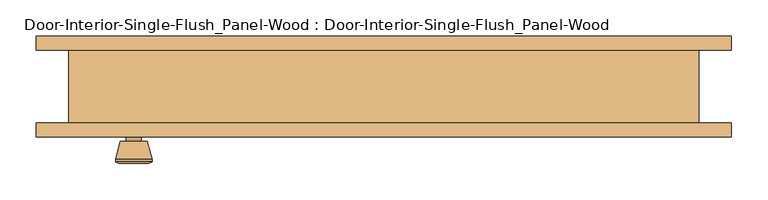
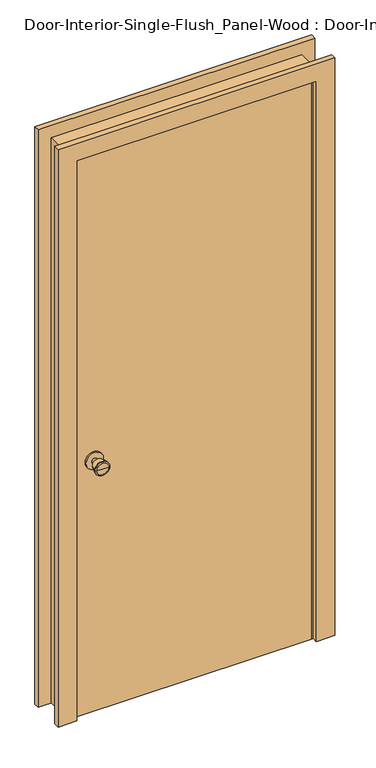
"""IFC4 building model written with IfcOpenShell, lengths in millimetres: door geometry, Door-Interior-Single-Flush_Panel-Wood : Door-Interior-Single-Flush_Panel-Wood."""

from ifc_helpers import new_model, si_unit, point, frame, frame_2d, origin, origin_with_axes, place, context, project, spatial, polyline, circle_curve, trimmed, segment, composite_curve, outline, extrude, faceted_brep, source, transform, mapped, element, save
from ifc_brep_helpers import plane_surface, cylinder_surface, revolved_surface, advanced_brep


def door_interior_single_flush_panel_wood_door_interior_single_6c8a464a(model_context):
    return source(origin(), model_context, "Body", "SolidModel", [
        advanced_brep(
        [(-342.9, -5.9, 914.4), (-352.9, -5.9, 914.4), (-332.9, -5.9, 914.4), (-322.4241324, 43.1, 914.4), (-363.3758676, 43.1, 914.4), (-342.9, 43.1, 914.4), (-317.9, 41.2721319, 914.4), (-367.9, 41.2721319, 914.4), (-317.9, 37.8084537, 914.4), (-367.9, 37.8084537, 914.4), (-324.263764, 13.1, 914.4), (-361.536236, 13.1, 914.4), (-332.9, 13.1, 914.4), (-352.9, 13.1, 914.4)],
        [
            (0, 1),
            (1, 2, circle_curve(frame((-342.9, -5.9, 914.4), z_axis=(0.0, -1.0, 0.0), x_axis=(-1.0, 0.0, 0.0)), 10.0)),
            (2, 0),
            (2, 1, circle_curve(frame((-342.9, -5.9, 914.4), z_axis=(0.0, -1.0, 0.0), x_axis=(-1.0, 0.0, 0.0)), 10.0)),
            (3, 4, circle_curve(frame((-342.9, 43.1, 914.4), z_axis=(0.0, 1.0, 0.0), x_axis=(-1.0, 0.0, 0.0)), 20.4758676)),
            (4, 5),
            (5, 3),
            (4, 3, circle_curve(frame((-342.9, 43.1, 914.4), z_axis=(0.0, 1.0, 0.0), x_axis=(-1.0, 0.0, 0.0)), 20.4758676)),
            (6, 7, circle_curve(frame((-342.9, 41.2721319, 914.4), z_axis=(0.0, 1.0, 0.0), x_axis=(-1.0, 0.0, 0.0)), 25.0)),
            (7, 4),
            (3, 6),
            (7, 6, circle_curve(frame((-342.9, 41.2721319, 914.4), z_axis=(0.0, 1.0, 0.0), x_axis=(-1.0, 0.0, 0.0)), 25.0)),
            (8, 9, circle_curve(frame((-342.9, 37.8084537, 914.4), z_axis=(0.0, 1.0, 0.0), x_axis=(-1.0, 0.0, 0.0)), 25.0)),
            (9, 7),
            (6, 8),
            (9, 8, circle_curve(frame((-342.9, 37.8084537, 914.4), z_axis=(0.0, 1.0, 0.0), x_axis=(-1.0, 0.0, 0.0)), 25.0)),
            (10, 11, circle_curve(frame((-342.9, 13.1, 914.4), z_axis=(0.0, 1.0, 0.0), x_axis=(-1.0, 0.0, 0.0)), 18.636236)),
            (11, 9),
            (8, 10),
            (11, 10, circle_curve(frame((-342.9, 13.1, 914.4), z_axis=(0.0, 1.0, 0.0), x_axis=(-1.0, 0.0, 0.0)), 18.636236)),
            (12, 13, circle_curve(frame((-342.9, 13.1, 914.4), z_axis=(0.0, 1.0, 0.0), x_axis=(-1.0, 0.0, 0.0)), 10.0)),
            (13, 11),
            (10, 12),
            (13, 12, circle_curve(frame((-342.9, 13.1, 914.4), z_axis=(0.0, 1.0, 0.0), x_axis=(-1.0, 0.0, 0.0)), 10.0)),
            (1, 13),
            (12, 2),
        ],
        [
            plane_surface(frame((-342.9, -5.9, 914.4), z_axis=(0.0, -1.0, 0.0), x_axis=(-1.0, 0.0, 0.0))),
            plane_surface(frame((-342.9, 43.1, 914.4), z_axis=(0.0, 1.0, 0.0), x_axis=(-1.0, 0.0, 0.0))),
            revolved_surface(polyline([(-363.3758676, 43.1, 914.4), (-367.9, 41.2721319, 914.4)]), (-342.9, -5.9, 914.4), (0.0, -1.0, 0.0)),
            cylinder_surface(frame((-342.9, -5.9, 914.4), z_axis=(0.0, -1.0, 0.0), x_axis=(-1.0, 0.0, 0.0)), 25.0),
            revolved_surface(polyline([(-367.9, 37.8084537, 914.4), (-361.536236, 13.1, 914.4)]), (-342.9, -5.9, 914.4), (0.0, -1.0, 0.0)),
            plane_surface(frame((-342.9, 13.1, 914.4), z_axis=(0.0, -1.0, 0.0), x_axis=(-1.0, 0.0, 0.0))),
            cylinder_surface(frame((-342.9, -5.9, 914.4), z_axis=(0.0, -1.0, 0.0), x_axis=(-1.0, 0.0, 0.0)), 10.0),
        ],
        [
            (0, [[1, 2, 3]]),
            (0, [[-3, 4, -1]]),
            (1, [[5, 6, 7]]),
            (1, [[8, -7, -6]]),
            (2, [[9, 10, -5, 11]]),
            (2, [[12, -11, -8, -10]]),
            (3, [[13, 14, -9, 15]]),
            (3, [[16, -15, -12, -14]]),
            (4, [[17, 18, -13, 19]]),
            (4, [[20, -19, -16, -18]]),
            (5, [[21, 22, -17, 23]]),
            (5, [[24, -23, -20, -22]]),
            (6, [[-2, 25, -21, 26]]),
            (6, [[-4, -26, -24, -25]]),
        ],
    ),
        extrude(outline(composite_curve([segment(trimmed(circle_curve(frame_2d((914.4, -342.9)), 30.0), [point((914.4, -372.9))], [point((914.4, -312.9))], False, "CARTESIAN"), True, "CONTINUOUS"), segment(trimmed(circle_curve(frame_2d((914.4, -342.9)), 30.0), [point((914.4, -312.9))], [point((914.4, -372.9))], False, "CARTESIAN"), True, "CONTINUOUS")], self_intersect=False)), frame((0.0, -11.9, 0.0), z_axis=(0.0, 1.0, 0.0), x_axis=(0.0, 0.0, 1.0)), (0.0, 0.0, 1.0), 6.0),
        advanced_brep(
        [(-342.9, -52.825, 914.4), (-332.9, -52.825, 914.4), (-352.9, -52.825, 914.4), (-322.4241324, -101.825, 914.4), (-342.9, -101.825, 914.4), (-363.3758676, -101.825, 914.4), (-317.9, -99.9971319, 914.4), (-367.9, -99.9971319, 914.4), (-317.9, -96.5334537, 914.4), (-367.9, -96.5334537, 914.4), (-324.263764, -71.825, 914.4), (-361.536236, -71.825, 914.4), (-332.9, -71.825, 914.4), (-352.9, -71.825, 914.4)],
        [
            (0, 1),
            (1, 2, circle_curve(frame((-342.9, -52.825, 914.4), z_axis=(0.0, 1.0, 0.0), x_axis=(-1.0, 0.0, 0.0)), 10.0)),
            (2, 0),
            (2, 1, circle_curve(frame((-342.9, -52.825, 914.4), z_axis=(0.0, 1.0, 0.0), x_axis=(-1.0, 0.0, 0.0)), 10.0)),
            (3, 4),
            (4, 5),
            (5, 3, circle_curve(frame((-342.9, -101.825, 914.4), z_axis=(0.0, -1.0, 0.0), x_axis=(-1.0, 0.0, 0.0)), 20.4758676)),
            (3, 5, circle_curve(frame((-342.9, -101.825, 914.4), z_axis=(0.0, -1.0, 0.0), x_axis=(-1.0, 0.0, 0.0)), 20.4758676)),
            (6, 3),
            (5, 7),
            (7, 6, circle_curve(frame((-342.9, -99.9971319, 914.4), z_axis=(0.0, -1.0, 0.0), x_axis=(-1.0, 0.0, 0.0)), 25.0)),
            (6, 7, circle_curve(frame((-342.9, -99.9971319, 914.4), z_axis=(0.0, -1.0, 0.0), x_axis=(-1.0, 0.0, 0.0)), 25.0)),
            (8, 6),
            (7, 9),
            (9, 8, circle_curve(frame((-342.9, -96.5334537, 914.4), z_axis=(0.0, -1.0, 0.0), x_axis=(-1.0, 0.0, 0.0)), 25.0)),
            (8, 9, circle_curve(frame((-342.9, -96.5334537, 914.4), z_axis=(0.0, -1.0, 0.0), x_axis=(-1.0, 0.0, 0.0)), 25.0)),
            (10, 8),
            (9, 11),
            (11, 10, circle_curve(frame((-342.9, -71.825, 914.4), z_axis=(0.0, -1.0, 0.0), x_axis=(-1.0, 0.0, 0.0)), 18.636236)),
            (10, 11, circle_curve(frame((-342.9, -71.825, 914.4), z_axis=(0.0, -1.0, 0.0), x_axis=(-1.0, 0.0, 0.0)), 18.636236)),
            (12, 10),
            (11, 13),
            (13, 12, circle_curve(frame((-342.9, -71.825, 914.4), z_axis=(0.0, -1.0, 0.0), x_axis=(-1.0, 0.0, 0.0)), 10.0)),
            (12, 13, circle_curve(frame((-342.9, -71.825, 914.4), z_axis=(0.0, -1.0, 0.0), x_axis=(-1.0, 0.0, 0.0)), 10.0)),
            (1, 12),
            (13, 2),
        ],
        [
            plane_surface(frame((-342.9, -52.825, 914.4), z_axis=(0.0, 1.0, 0.0), x_axis=(-1.0, 0.0, 0.0))),
            plane_surface(frame((-342.9, -101.825, 914.4), z_axis=(0.0, -1.0, 0.0), x_axis=(-1.0, 0.0, 0.0))),
            revolved_surface(polyline([(-363.3758676, -101.825, 914.4), (-367.9, -99.9971319, 914.4)]), (-342.9, -52.825, 914.4), (0.0, 1.0, 0.0)),
            cylinder_surface(frame((-342.9, -52.825, 914.4), z_axis=(0.0, 1.0, 0.0), x_axis=(-1.0, 0.0, 0.0)), 25.0),
            revolved_surface(polyline([(-367.9, -96.5334537, 914.4), (-361.536236, -71.825, 914.4)]), (-342.9, -52.825, 914.4), (0.0, 1.0, 0.0)),
            plane_surface(frame((-342.9, -71.825, 914.4), z_axis=(0.0, 1.0, 0.0), x_axis=(-1.0, 0.0, 0.0))),
            cylinder_surface(frame((-342.9, -52.825, 914.4), z_axis=(0.0, 1.0, 0.0), x_axis=(-1.0, 0.0, 0.0)), 10.0),
        ],
        [
            (0, [[1, 2, 3]]),
            (0, [[-3, 4, -1]]),
            (1, [[5, 6, 7]]),
            (1, [[-6, -5, 8]]),
            (2, [[9, -7, 10, 11]]),
            (2, [[-10, -8, -9, 12]]),
            (3, [[13, -11, 14, 15]]),
            (3, [[-14, -12, -13, 16]]),
            (4, [[17, -15, 18, 19]]),
            (4, [[-18, -16, -17, 20]]),
            (5, [[21, -19, 22, 23]]),
            (5, [[-22, -20, -21, 24]]),
            (6, [[25, -23, 26, -2]]),
            (6, [[-26, -24, -25, -4]]),
        ],
    ),
        extrude(outline(composite_curve([segment(trimmed(circle_curve(frame_2d((914.4, -342.9)), 30.0), [point((914.4, -372.9))], [point((914.4, -312.9))], False, "CARTESIAN"), True, "CONTINUOUS"), segment(trimmed(circle_curve(frame_2d((914.4, -342.9)), 30.0), [point((914.4, -312.9))], [point((914.4, -372.9))], False, "CARTESIAN"), True, "CONTINUOUS")], self_intersect=False)), frame((0.0, -52.825, 0.0), z_axis=(0.0, 1.0, 0.0), x_axis=(0.0, 0.0, 1.0)), (0.0, 0.0, 1.0), 6.0),
        extrude(outline(polyline([(406.4, -11.9), (406.4, -46.825), (-406.4, -46.825), (-406.4, -11.9), (406.4, -11.9)])), origin_with_axes(), (0.0, 0.0, 1.0), 2032.0),
        faceted_brep([(431.8, -46.825, 0.0), (406.4, -46.825, 0.0), (406.4, -11.9, 0.0), (393.7, -11.9, 0.0), (393.7, 23.025, 0.0), (406.4, 23.025, 0.0), (406.4, 53.175, 0.0), (431.8, 53.175, 0.0), (431.8, 53.175, 2057.4), (431.8, -46.825, 2057.4), (406.4, 53.175, 2032.0), (-406.4, 53.175, 2032.0), (-406.4, 53.175, 0.0), (-431.8, 53.175, 0.0), (-431.8, 53.175, 2057.4), (406.4, 23.025, 2032.0), (393.7, 23.025, 2019.3), (-393.7, 23.025, 2019.3), (-393.7, 23.025, 0.0), (-406.4, 23.025, 0.0), (-406.4, 23.025, 2032.0), (393.7, -11.9, 2019.3), (406.4, -11.9, 2032.0), (-406.4, -11.9, 2032.0), (-406.4, -11.9, 0.0), (-393.7, -11.9, 0.0), (-393.7, -11.9, 2019.3), (406.4, -46.825, 2032.0), (-431.8, -46.825, 2057.4), (-431.8, -46.825, 0.0), (-406.4, -46.825, 0.0), (-406.4, -46.825, 2032.0)], [[[0, 1, 2, 3, 4, 5, 6, 7]], [[7, 8, 9, 0]], [[6, 10, 11, 12, 13, 14, 8, 7]], [[5, 15, 10, 6]], [[4, 16, 17, 18, 19, 20, 15, 5]], [[3, 21, 16, 4]], [[2, 22, 23, 24, 25, 26, 21, 3]], [[1, 27, 22, 2]], [[0, 9, 28, 29, 30, 31, 27, 1]], [[8, 14, 28, 9]], [[15, 20, 11, 10]], [[21, 26, 17, 16]], [[27, 31, 23, 22]], [[29, 13, 12, 19, 18, 25, 24, 30]], [[14, 13, 29, 28]], [[20, 19, 12, 11]], [[26, 25, 18, 17]], [[31, 30, 24, 23]]]),
        extrude(outline(polyline([(0.0, 476.25), (2101.85, 476.25), (2101.85, -476.25), (0.0, -476.25), (0.0, -412.75), (2038.35, -412.75), (2038.35, 412.75), (0.0, 412.75), (0.0, 476.25)])), frame((0.0, 53.175, 0.0), z_axis=(0.0, 1.0, 0.0), x_axis=(0.0, 0.0, 1.0)), (0.0, 0.0, 1.0), 19.05),
        extrude(outline(polyline([(0.0, 476.25), (2101.85, 476.25), (2101.85, -476.25), (0.0, -476.25), (0.0, -412.75), (2038.35, -412.75), (2038.35, 412.75), (0.0, 412.75), (0.0, 476.25)])), frame((0.0, -65.875, 0.0), z_axis=(0.0, 1.0, 0.0), x_axis=(0.0, 0.0, 1.0)), (0.0, 0.0, 1.0), 19.05),
    ])


if __name__ == "__main__":
    model = new_model("IFC4")
    model_context = context("Model", 3, world=origin())
    ifc_project = project(units=[si_unit("LENGTHUNIT", "METRE", prefix="MILLI")], contexts=[model_context])
    site = spatial("IfcSite", under=ifc_project)
    building = spatial("IfcBuilding", under=site)
    placement = place(None, origin())
    door_interior_single_flush_panel_wood_door_interior_single_shape = door_interior_single_flush_panel_wood_door_interior_single_6c8a464a(model_context)
    element("IfcDoor", 1, ObjectType="Door-Interior-Single-Flush_Panel-Wood : Door-Interior-Single-Flush_Panel-Wood", at=placement, inside=building, context=model_context, shape_type="MappedRepresentation", body=[
        mapped(door_interior_single_flush_panel_wood_door_interior_single_shape, transform((0.0, 0.0, 0.0), x_axis=(1.0, 0.0, 0.0), y_axis=(0.0, 1.0, 0.0), z_axis=(0.0, 0.0, 1.0))),
    ])
    save(model, "model.ifc")
